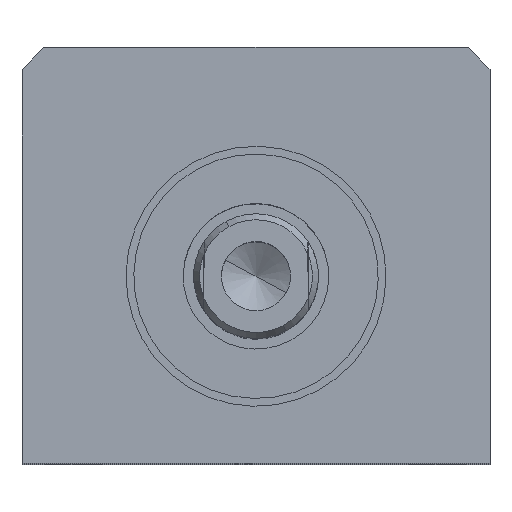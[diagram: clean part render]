
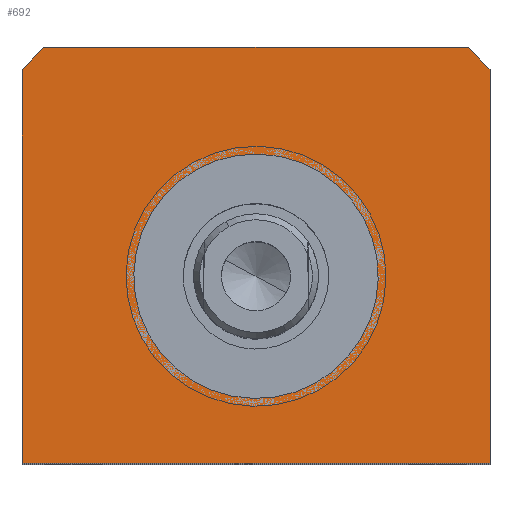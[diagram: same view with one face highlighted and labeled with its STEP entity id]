
A CAD part, top view. The second image highlights one B-rep face of the part: STEP entity #692.
In plain terms, the highlighted planar face has unit normal (0, 0, 1).
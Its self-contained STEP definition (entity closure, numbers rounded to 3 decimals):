
#119=CARTESIAN_POINT('Vertex',(22.5,-18.,58.)) ;
#124=CARTESIAN_POINT('Line Origine',(0.,-18.,58.)) ;
#128=CARTESIAN_POINT('Vertex',(-22.5,-18.,58.)) ;
#371=CARTESIAN_POINT('Vertex',(-5.633,10.312,58.)) ;
#378=CARTESIAN_POINT('Vertex',(5.633,-10.312,58.)) ;
#381=CARTESIAN_POINT('Axis2P3D Location',(0.,0.,58.)) ;
#393=CARTESIAN_POINT('Axis2P3D Location',(0.,0.,58.)) ;
#642=CARTESIAN_POINT('Axis2P3D Location',(0.,30.,58.)) ;
#647=CARTESIAN_POINT('Line Origine',(0.,22.,58.)) ;
#651=CARTESIAN_POINT('Vertex',(20.396,22.,58.)) ;
#653=CARTESIAN_POINT('Vertex',(-20.396,22.,58.)) ;
#656=CARTESIAN_POINT('Axis2P3D Location',(0.,0.,58.)) ;
#660=CARTESIAN_POINT('Vertex',(-22.5,19.843,58.)) ;
#663=CARTESIAN_POINT('Line Origine',(-22.5,0.922,58.)) ;
#668=CARTESIAN_POINT('Line Origine',(22.5,0.922,58.)) ;
#672=CARTESIAN_POINT('Vertex',(22.5,19.843,58.)) ;
#675=CARTESIAN_POINT('Axis2P3D Location',(0.,0.,58.)) ;
#125=DIRECTION('Vector Direction',(-1.,0.,0.)) ;
#382=DIRECTION('Axis2P3D Direction',(0.,0.,1.)) ;
#394=DIRECTION('Axis2P3D Direction',(0.,0.,1.)) ;
#643=DIRECTION('Axis2P3D Direction',(0.,0.,1.)) ;
#644=DIRECTION('Axis2P3D XDirection',(1.,0.,0.)) ;
#648=DIRECTION('Vector Direction',(1.,0.,0.)) ;
#657=DIRECTION('Axis2P3D Direction',(0.,0.,1.)) ;
#664=DIRECTION('Vector Direction',(0.,-1.,0.)) ;
#669=DIRECTION('Vector Direction',(0.,1.,0.)) ;
#676=DIRECTION('Axis2P3D Direction',(0.,0.,1.)) ;
#383=AXIS2_PLACEMENT_3D('Circle Axis2P3D',#381,#382,$) ;
#395=AXIS2_PLACEMENT_3D('Circle Axis2P3D',#393,#394,$) ;
#645=AXIS2_PLACEMENT_3D('Plane Axis2P3D',#642,#643,#644) ;
#658=AXIS2_PLACEMENT_3D('Circle Axis2P3D',#656,#657,$) ;
#677=AXIS2_PLACEMENT_3D('Circle Axis2P3D',#675,#676,$) ;
#681=ORIENTED_EDGE('',*,*,#655,.T.) ;
#682=ORIENTED_EDGE('',*,*,#662,.T.) ;
#683=ORIENTED_EDGE('',*,*,#667,.T.) ;
#684=ORIENTED_EDGE('',*,*,#130,.T.) ;
#685=ORIENTED_EDGE('',*,*,#674,.T.) ;
#686=ORIENTED_EDGE('',*,*,#679,.T.) ;
#689=ORIENTED_EDGE('',*,*,#397,.F.) ;
#690=ORIENTED_EDGE('',*,*,#385,.F.) ;
#691=FACE_BOUND('',#688,.T.) ;
#126=VECTOR('Line Direction',#125,1.) ;
#649=VECTOR('Line Direction',#648,1.) ;
#665=VECTOR('Line Direction',#664,1.) ;
#670=VECTOR('Line Direction',#669,1.) ;
#692=ADVANCED_FACE('PartBody',(#687,#691),#646,.T.) ;
#384=CIRCLE('generated circle',#383,11.75) ;
#396=CIRCLE('generated circle',#395,11.75) ;
#659=CIRCLE('generated circle',#658,30.) ;
#678=CIRCLE('generated circle',#677,30.) ;
#130=EDGE_CURVE('',#129,#120,#127,.F.) ;
#385=EDGE_CURVE('',#379,#372,#384,.T.) ;
#397=EDGE_CURVE('',#372,#379,#396,.T.) ;
#655=EDGE_CURVE('',#652,#654,#650,.F.) ;
#662=EDGE_CURVE('',#654,#661,#659,.T.) ;
#667=EDGE_CURVE('',#661,#129,#666,.T.) ;
#674=EDGE_CURVE('',#120,#673,#671,.T.) ;
#679=EDGE_CURVE('',#673,#652,#678,.T.) ;
#680=EDGE_LOOP('',(#681,#682,#683,#684,#685,#686)) ;
#688=EDGE_LOOP('',(#689,#690)) ;
#687=FACE_OUTER_BOUND('',#680,.T.) ;
#127=LINE('Line',#124,#126) ;
#650=LINE('Line',#647,#649) ;
#666=LINE('Line',#663,#665) ;
#671=LINE('Line',#668,#670) ;
#646=PLANE('Plane',#645) ;
#120=VERTEX_POINT('',#119) ;
#129=VERTEX_POINT('',#128) ;
#372=VERTEX_POINT('',#371) ;
#379=VERTEX_POINT('',#378) ;
#652=VERTEX_POINT('',#651) ;
#654=VERTEX_POINT('',#653) ;
#661=VERTEX_POINT('',#660) ;
#673=VERTEX_POINT('',#672) ;
